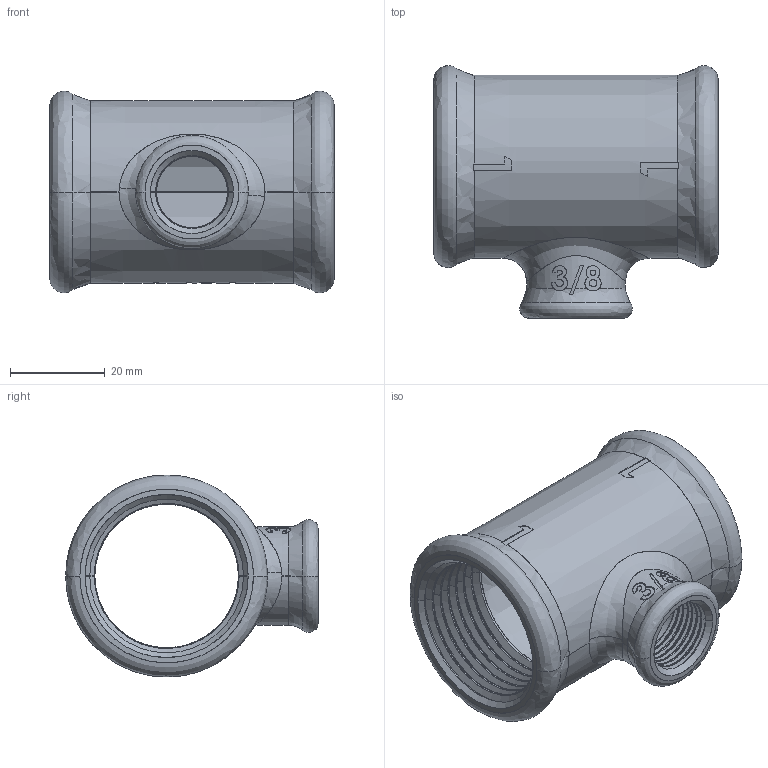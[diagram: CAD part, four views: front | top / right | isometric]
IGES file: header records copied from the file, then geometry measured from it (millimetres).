
Start section: SolidWorks IGES file using analytic representation for surfaces
Global section: file name: C:\Users\Joel Rosa\Desktop\Tubulação\12-45-XXX\12-45-031.IGS; native system: SolidWorks 2011; preprocessor: SolidWorks 2011; author: Joel Rosa; date: 121212.233212; units: millimetre
Bounding box: 60 x 53.3 x 42.6 mm (x, y, z)
Surface area: 18576.4 mm2 (no closed solid volume)
Topology: 0 solids, 0 shells, 361 faces, 3972 edges, 3972 vertices
Faces by surface type: bspline 247, revolution 114
